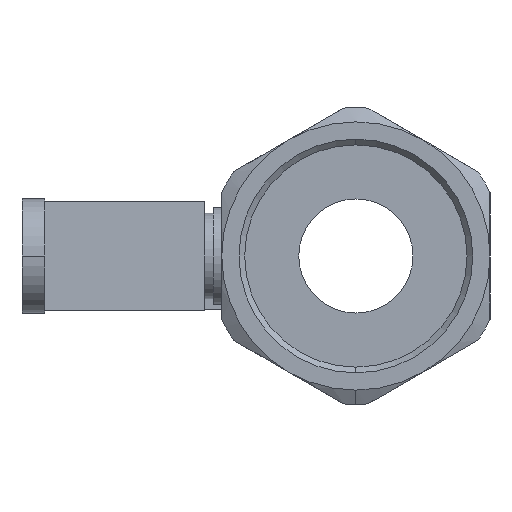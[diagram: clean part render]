
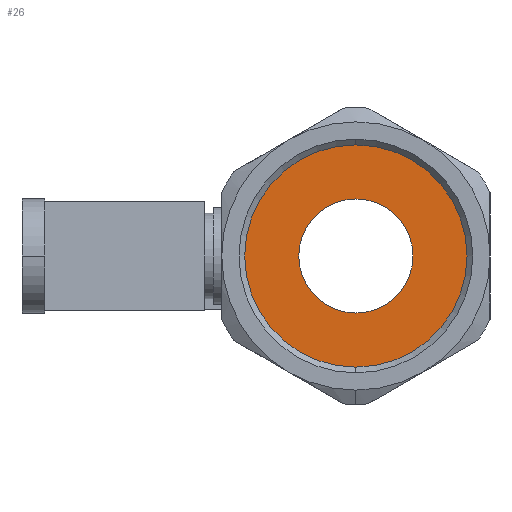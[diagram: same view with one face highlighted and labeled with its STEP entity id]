
A CAD part, left-side view. The second image highlights one B-rep face of the part: STEP entity #26.
In plain terms, the highlighted planar face has unit normal (-1, 0, 0).
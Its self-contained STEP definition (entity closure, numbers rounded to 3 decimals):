
#6 = EDGE_CURVE ( 'NONE', #1440, #2706, #21, .T. ) ;
#21 = CIRCLE ( 'NONE', #3691, 10. ) ;
#26 = ADVANCED_FACE ( 'NONE', ( #2891, #696 ), #1785, .F. ) ;
#39 = CARTESIAN_POINT ( 'NONE',  ( -18.5, 0., 0. ) ) ;
#139 = EDGE_CURVE ( 'NONE', #1570, #1981, #2704, .T. ) ;
#250 = CARTESIAN_POINT ( 'NONE',  ( -18.5, 0., 0. ) ) ;
#336 = DIRECTION ( 'NONE',  ( 0., 0., 1. ) ) ;
#440 = CARTESIAN_POINT ( 'NONE',  ( -18.5, 0., -19.475 ) ) ;
#507 = CARTESIAN_POINT ( 'NONE',  ( -18.5, 0., 0. ) ) ;
#566 = CIRCLE ( 'NONE', #2688, 19.475 ) ;
#617 = ORIENTED_EDGE ( 'NONE', *, *, #6, .F. ) ;
#696 = FACE_OUTER_BOUND ( 'NONE', #3474, .T. ) ;
#766 = ORIENTED_EDGE ( 'NONE', *, *, #139, .T. ) ;
#776 = AXIS2_PLACEMENT_3D ( 'NONE', #507, #2498, #788 ) ;
#788 = DIRECTION ( 'NONE',  ( 0., 0., 1. ) ) ;
#940 = AXIS2_PLACEMENT_3D ( 'NONE', #1512, #2359, #1771 ) ;
#1004 = CIRCLE ( 'NONE', #776, 10. ) ;
#1022 = ORIENTED_EDGE ( 'NONE', *, *, #1025, .T. ) ;
#1025 = EDGE_CURVE ( 'NONE', #1981, #1570, #566, .T. ) ;
#1057 = DIRECTION ( 'NONE',  ( -1., 0., 0. ) ) ;
#1136 = AXIS2_PLACEMENT_3D ( 'NONE', #250, #1057, #2558 ) ;
#1217 = CARTESIAN_POINT ( 'NONE',  ( -18.5, 0., 0. ) ) ;
#1235 = CARTESIAN_POINT ( 'NONE',  ( -18.5, 0., 19.475 ) ) ;
#1440 = VERTEX_POINT ( 'NONE', #2293 ) ;
#1512 = CARTESIAN_POINT ( 'NONE',  ( -18.5, 19.475, 0. ) ) ;
#1570 = VERTEX_POINT ( 'NONE', #1235 ) ;
#1602 = ORIENTED_EDGE ( 'NONE', *, *, #3082, .F. ) ;
#1771 = DIRECTION ( 'NONE',  ( 0., 0., -1. ) ) ;
#1785 = PLANE ( 'NONE',  #940 ) ;
#1981 = VERTEX_POINT ( 'NONE', #440 ) ;
#2050 = DIRECTION ( 'NONE',  ( -1., 0., 0. ) ) ;
#2065 = DIRECTION ( 'NONE',  ( -1., 0., 0. ) ) ;
#2293 = CARTESIAN_POINT ( 'NONE',  ( -18.5, 0., 10. ) ) ;
#2359 = DIRECTION ( 'NONE',  ( 1., 0., 0. ) ) ;
#2498 = DIRECTION ( 'NONE',  ( -1., 0., 0. ) ) ;
#2558 = DIRECTION ( 'NONE',  ( 0., 0., 1. ) ) ;
#2643 = DIRECTION ( 'NONE',  ( 0., 0., 1. ) ) ;
#2688 = AXIS2_PLACEMENT_3D ( 'NONE', #39, #2050, #336 ) ;
#2704 = CIRCLE ( 'NONE', #1136, 19.475 ) ;
#2706 = VERTEX_POINT ( 'NONE', #3712 ) ;
#2891 = FACE_BOUND ( 'NONE', #3523, .T. ) ;
#3082 = EDGE_CURVE ( 'NONE', #2706, #1440, #1004, .T. ) ;
#3474 = EDGE_LOOP ( 'NONE', ( #766, #1022 ) ) ;
#3523 = EDGE_LOOP ( 'NONE', ( #617, #1602 ) ) ;
#3691 = AXIS2_PLACEMENT_3D ( 'NONE', #1217, #2065, #2643 ) ;
#3712 = CARTESIAN_POINT ( 'NONE',  ( -18.5, 0., -10. ) ) ;
